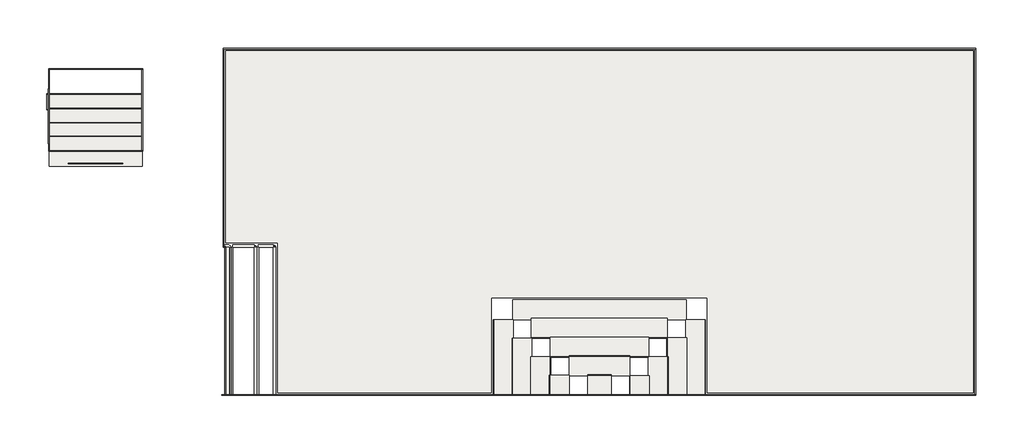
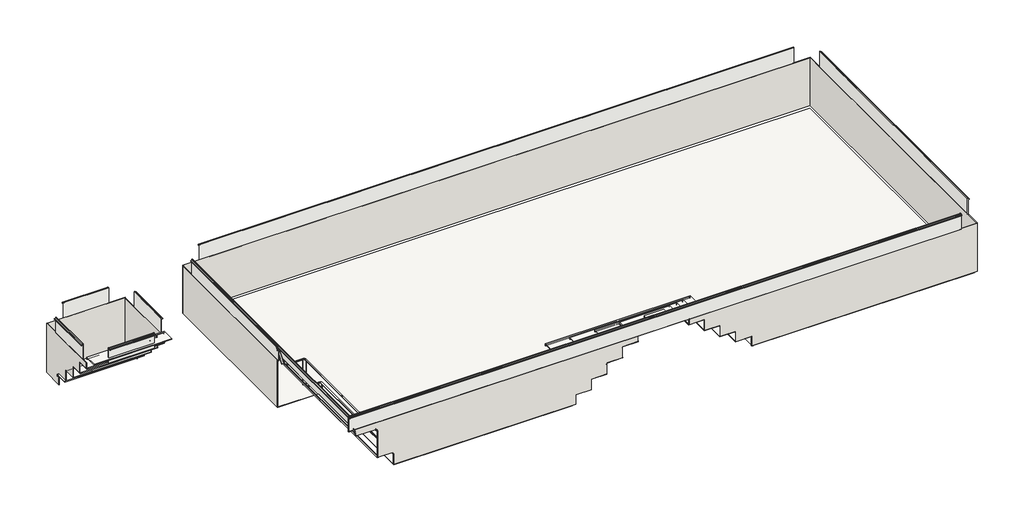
# One storey, incomplete: 37 slabs, 7 walls, 1 proxy.
"""IFC4 building model written with IfcOpenShell, lengths in millimetres."""

from ifc_helpers import new_model, si_unit, frame, origin, place, context, project, spatial, polyline, circle_curve, outline, extrude, faceted_brep, transform, mapped, element, save
from ifc_brep_helpers import plane_surface, cylinder_surface, revolved_surface, advanced_brep
from components import generic_models_2f38e3b8, slab_7ef6d17a, slab_412796ce, slab_e89e9ebe, slab_9f48864e, slab_90aa90d8, slab_a0713d1b, slab_50f677a4, slab_c104f72b, slab_16eb6e68, slab_7d5f53a7, slab_8b9676be, slab_cf50c713, slab_797531ea, slab_d9e7cd34, slab_826b4f3d, slab_c4381082, slab_49bf93fa, slab_b84ba919, slab_03dca62d, slab_431552fd, slab_8d85c21c, slab_4f954f11, slab_7f38c4d1, slab_f0ecebe4, slab_8c8c27a8, slab_8c668322, slab_c2f96149, slab_21f2066a, slab_bfe98183, slab_69e8258f, slab_3769058e, slab_2d9b47c5, slab_a22765c6, slab_a51d032b, slab_653ebc57

model = new_model("IFC4")

# Units and contexts
model_context = context("Model", 3, world=origin())
ifc_project = project(units=[si_unit("LENGTHUNIT", "METRE", prefix="MILLI")], contexts=[model_context])

# Site, building, storey
site = spatial("IfcSite", under=ifc_project)
building = spatial("IfcBuilding", under=site)
storey = spatial("IfcBuildingStorey", under=building, Name="3_NFondo1P1 -1.31", Elevation=-1310.0)

# Proxy
placement = place(None, origin())
generic_models_shape = generic_models_2f38e3b8(model_context)
element("IfcBuildingElementProxy", 1, Name="ROSA GRES_115 : Pieza 115_Tresor_Java_Anti-Slip", ObjectType="ROSA GRES_115 : Pieza 115_Tresor_Java_Anti-Slip", at=placement, inside=storey, context=model_context, shape_type="MappedRepresentation", body=[
    mapped(generic_models_shape, transform((1836.5093267, 9874.9770206, -489.9734114), x_axis=(0.0, 1.0, 0.0), y_axis=(-1.0, 0.0, 0.0), z_axis=(0.0, 0.0, 1.0))),
])

# Slabs
element("IfcSlab", 2, ObjectType="Pieza 316_Patrón 1/3_Tresor_Java_Anti-Slip", at=placement, inside=storey, context=model_context, shape_type="SweptSolid", body=[
    extrude(outline(polyline([(13360.4827381, 7543.7536092), (9100.5359152, 7543.7536092), (9100.5359152, 9063.7536092), (5640.4827381, 9063.7536092), (5640.4827381, 7543.7536092), (2215.5359152, 7543.7536092), (2215.5359152, 9945.0036092), (1380.5359152, 9945.0036092), (1380.5359152, 13023.7004321), (13360.4827381, 13023.7004321), (13360.4827381, 7543.7536092)])), frame((0.0, 0.0, -1319.0), z_axis=(0.0, 0.0, 1.0), x_axis=(1.0, 0.0, 0.0)), (0.0, 0.0, 1.0), 9.0),
])
slab_shape = slab_7ef6d17a(model_context)
element("IfcSlab", 3, ObjectType="ROSA GRES_L62 : Pieza L62_Tresor_Java_Anti-Slip", at=placement, inside=storey, context=model_context, shape_type="MappedRepresentation", body=[
    mapped(slab_shape, transform((5670.5093267, 7513.7270206, -1085.0), x_axis=(0.0, 1.0, 0.0), y_axis=(-1.0, 0.0, 0.0), z_axis=(0.0, 0.0, 1.0))),
])
slab_2_shape = slab_412796ce(model_context)
element("IfcSlab", 4, ObjectType="ROSA GRES_L62 : Pieza L62_Tresor_Java_Anti-Slip", at=placement, inside=storey, context=model_context, shape_type="MappedRepresentation", body=[
    mapped(slab_2_shape, transform((5970.5093267, 7513.7270206, -873.9413919), x_axis=(0.0, 1.0, 0.0), y_axis=(-1.0, 0.0, 0.0), z_axis=(0.0, 0.0, 1.0))),
])
slab_3_shape = slab_e89e9ebe(model_context)
element("IfcSlab", 5, ObjectType="ROSA GRES_L62 : Pieza L62_Tresor_Java_Anti-Slip", at=placement, inside=storey, context=model_context, shape_type="MappedRepresentation", body=[
    mapped(slab_3_shape, transform((6270.5093267, 7513.7270206, -648.9413919), x_axis=(0.0, 1.0, 0.0), y_axis=(-1.0, 0.0, 0.0), z_axis=(0.0, 0.0, 1.0))),
])
slab_4_shape = slab_9f48864e(model_context)
element("IfcSlab", 6, ObjectType="ROSA GRES_L62 : Pieza L62_Tresor_Java_Anti-Slip", at=placement, inside=storey, context=model_context, shape_type="MappedRepresentation", body=[
    mapped(slab_4_shape, transform((6570.5093267, 7513.7270206, -423.9413919), x_axis=(0.0, 1.0, 0.0), y_axis=(-1.0, 0.0, 0.0), z_axis=(0.0, 0.0, 1.0))),
])
slab_5_shape = slab_90aa90d8(model_context)
element("IfcSlab", 7, ObjectType="ROSA GRES_L62 : Pieza L62_Tresor_Java_Anti-Slip", at=placement, inside=storey, context=model_context, shape_type="MappedRepresentation", body=[
    mapped(slab_5_shape, transform((8470.5093267, 7513.7270206, -648.9413919), x_axis=(0.0, 1.0, 0.0), y_axis=(-1.0, 0.0, 0.0), z_axis=(0.0, 0.0, 1.0))),
])
slab_6_shape = slab_a0713d1b(model_context)
element("IfcSlab", 8, ObjectType="ROSA GRES_L62 : Pieza L62_Tresor_Java_Anti-Slip", at=placement, inside=storey, context=model_context, shape_type="MappedRepresentation", body=[
    mapped(slab_6_shape, transform((8770.5093267, 7513.7270206, -873.9413919), x_axis=(0.0, 1.0, 0.0), y_axis=(-1.0, 0.0, 0.0), z_axis=(0.0, 0.0, 1.0))),
])
slab_7_shape = slab_50f677a4(model_context)
element("IfcSlab", 9, ObjectType="ROSA GRES_L62 : Pieza L62_Tresor_Java_Anti-Slip", at=placement, inside=storey, context=model_context, shape_type="MappedRepresentation", body=[
    mapped(slab_7_shape, transform((9070.5093267, 7513.7270206, -1085.0), x_axis=(0.0, 1.0, 0.0), y_axis=(-1.0, 0.0, 0.0), z_axis=(0.0, 0.0, 1.0))),
])
slab_8_shape = slab_c104f72b(model_context)
element("IfcSlab", 10, ObjectType="ROSA GRES_L62 : Pieza L62_Tresor_Java_Anti-Slip", at=placement, inside=storey, context=model_context, shape_type="MappedRepresentation", body=[
    mapped(slab_8_shape, transform((8170.5093267, 7513.7270206, -423.9413919), x_axis=(0.0, 1.0, 0.0), y_axis=(-1.0, 0.0, 0.0), z_axis=(0.0, 0.0, 1.0))),
])
slab_9_shape = slab_16eb6e68(model_context)
element("IfcSlab", 11, ObjectType="ROSA GRES_183 : Pieza 183_Tresor_Java_Anti-Slip", at=placement, inside=storey, context=model_context, shape_type="MappedRepresentation", body=[
    mapped(slab_9_shape, transform((2145.5093267, 7514.9770206, -1069.9734114), x_axis=(0.0, 1.0, 0.0), y_axis=(-1.0, 0.0, 0.0), z_axis=(0.0, 0.0, 1.0))),
])
slab_10_shape = slab_7d5f53a7(model_context)
element("IfcSlab", 12, ObjectType="ROSA GRES_183 : Pieza 183_Tresor_Java_Anti-Slip", at=placement, inside=storey, context=model_context, shape_type="MappedRepresentation", body=[
    mapped(slab_10_shape, transform((1836.5093267, 7504.9770206, -489.9734114), x_axis=(0.0, 1.0, 0.0), y_axis=(-1.0, 0.0, 0.0), z_axis=(0.0, 0.0, 1.0))),
])
slab_11_shape = slab_8b9676be(model_context)
element("IfcSlab", 13, ObjectType="ROSA GRES_183 : Pieza 183_Tresor_Java_Anti-Slip", at=placement, inside=storey, context=model_context, shape_type="MappedRepresentation", body=[
    mapped(slab_11_shape, transform((1836.5093267, 9874.9770206, -999.9468229), x_axis=(0.0, 0.0, 1.0), y_axis=(1.0, 0.0, 0.0), z_axis=(0.0, 1.0, 0.0))),
])
slab_12_shape = slab_cf50c713(model_context)
element("IfcSlab", 14, ObjectType="ROSA GRES_183 : Pieza 183_Tresor_Java_Anti-Slip", at=placement, inside=storey, context=model_context, shape_type="MappedRepresentation", body=[
    mapped(slab_12_shape, transform((2145.5093267, 9874.9770206, -1279.9734118), x_axis=(0.0, 0.0, 1.0), y_axis=(1.0, 0.0, 0.0), z_axis=(0.0, 1.0, 0.0))),
])
slab_13_shape = slab_797531ea(model_context)
element("IfcSlab", 15, ObjectType="ROSA GRES_183 : Pieza 183_Tresor_Java_Anti-Slip", at=placement, inside=storey, context=model_context, shape_type="MappedRepresentation", body=[
    mapped(slab_13_shape, transform((2145.5093267, 9874.9770206, -1069.9734114), x_axis=(-1.0, 0.0, 0.0), y_axis=(0.0, 0.0, 1.0), z_axis=(0.0, 1.0, 0.0))),
])
slab_14_shape = slab_d9e7cd34(model_context)
element("IfcSlab", 16, ObjectType="ROSA GRES_188 : Pieza 188_Tresor_Java_Anti-Slip", at=placement, inside=storey, context=model_context, shape_type="MappedRepresentation", body=[
    mapped(slab_14_shape, transform((1866.5359152, 9874.9770206, -1039.9468229), x_axis=(0.0, -1.0, 0.0), y_axis=(1.0, 0.0, 0.0), z_axis=(0.0, 0.0, 1.0))),
])
slab_15_shape = slab_826b4f3d(model_context)
element("IfcSlab", 17, ObjectType="ROSA GRES_L62 : Pieza L62_Tresor_Java_Anti-Slip", at=placement, inside=storey, context=model_context, shape_type="MappedRepresentation", body=[
    mapped(slab_15_shape, transform((6887.5093267, 8133.7270206, -423.9413919), x_axis=(1.0, 0.0, 0.0), y_axis=(0.0, 1.0, 0.0), z_axis=(0.0, 0.0, 1.0))),
])
slab_16_shape = slab_c4381082(model_context)
element("IfcSlab", 18, ObjectType="ROSA GRES_L62 : Pieza L62_Tresor_Java_Anti-Slip", at=placement, inside=storey, context=model_context, shape_type="MappedRepresentation", body=[
    mapped(slab_16_shape, transform((6585.5093267, 8433.7270206, -648.9413919), x_axis=(1.0, 0.0, 0.0), y_axis=(0.0, 1.0, 0.0), z_axis=(0.0, 0.0, 1.0))),
])
slab_17_shape = slab_49bf93fa(model_context)
element("IfcSlab", 19, ObjectType="ROSA GRES_L62 : Pieza L62_Tresor_Java_Anti-Slip", at=placement, inside=storey, context=model_context, shape_type="MappedRepresentation", body=[
    mapped(slab_17_shape, transform((6279.5093267, 8738.2270206, -873.9413919), x_axis=(1.0, 0.0, 0.0), y_axis=(0.0, 1.0, 0.0), z_axis=(0.0, 0.0, 1.0))),
])
slab_18_shape = slab_b84ba919(model_context)
element("IfcSlab", 20, ObjectType="ROSA GRES_L62 : Pieza L62_Tresor_Java_Anti-Slip", at=placement, inside=storey, context=model_context, shape_type="MappedRepresentation", body=[
    mapped(slab_18_shape, transform((5979.5093267, 9033.7270206, -1085.0), x_axis=(1.0, 0.0, 0.0), y_axis=(0.0, 1.0, 0.0), z_axis=(0.0, 0.0, 1.0))),
])
slab_19_shape = slab_03dca62d(model_context)
element("IfcSlab", 21, ObjectType="ROSA GRES_L62 : Pieza L62_Tresor_Java_Anti-Slip", at=placement, inside=storey, context=model_context, shape_type="MappedRepresentation", body=[
    mapped(slab_19_shape, transform((7184.5093267, 7829.2270206, -201.4413919), x_axis=(1.0, 0.0, 0.0), y_axis=(0.0, 1.0, 0.0), z_axis=(0.0, 0.0, 1.0))),
])
slab_20_shape = slab_431552fd(model_context)
element("IfcSlab", 22, ObjectType="ROSA GRES_188 : Pieza 188_Tresor_Java_Anti-Slip", at=placement, inside=storey, context=model_context, shape_type="MappedRepresentation", body=[
    mapped(slab_20_shape, transform((1455.5151617, 9874.9770206, -460.1378988), x_axis=(0.0, -1.0, 0.0), y_axis=(1.0, 0.0, 0.0), z_axis=(0.0, 0.0, 1.0))),
])
slab_21_shape = slab_8d85c21c(model_context)
element("IfcSlab", 23, ObjectType="ROSA GRES_183 : Pieza 183_Tresor_Java_Anti-Slip", at=placement, inside=storey, context=model_context, shape_type="MappedRepresentation", body=[
    mapped(slab_21_shape, transform((1425.867323, 9874.9770206, -435.3480531), x_axis=(-0.2592541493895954, 0.0, 0.9658091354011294), y_axis=(0.0, -1.0, 0.0), z_axis=(0.9658091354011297, 0.0, 0.259254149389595))),
])
slab_22_shape = slab_4f954f11(model_context)
element("IfcSlab", 24, ObjectType="ROSA GRES_183 : Pieza 183_Tresor_Java_Anti-Slip", at=placement, inside=storey, context=model_context, shape_type="MappedRepresentation", body=[
    mapped(slab_22_shape, transform((1836.5093267, 9874.9770206, -489.9734114), x_axis=(-1.0, 0.0, 0.0), y_axis=(0.0, 0.0, 1.0), z_axis=(0.0, 1.0, 0.0))),
])
slab_23_shape = slab_7f38c4d1(model_context)
element("IfcSlab", 25, ObjectType="ROSA GRES_J62 : Pieza J62_Tresor_Java_Anti-Slip", at=placement, inside=storey, context=model_context, shape_type="MappedRepresentation", body=[
    mapped(slab_23_shape, transform((1335.5352208, 9874.9770206, -1.2015771), x_axis=(0.0, -1.0, 0.0), y_axis=(0.2756373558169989, 0.0, -0.961261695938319), z_axis=(0.961261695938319, 0.0, 0.2756373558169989))),
])
slab_24_shape = slab_f0ecebe4(model_context)
element("IfcSlab", 26, ObjectType="ROSA GRES_J62 : Pieza J62_Tresor_Java_Anti-Slip", at=placement, inside=storey, context=model_context, shape_type="MappedRepresentation", body=[
    mapped(slab_24_shape, transform((1337.7146998, 12744.9770206, 1.0586081), x_axis=(0.0, -1.0, 0.0), y_axis=(0.0, 0.0, -1.0), z_axis=(1.0, 0.0, 0.0))),
])
slab_25_shape = slab_8c8c27a8(model_context)
element("IfcSlab", 27, ObjectType="ROSA GRES_J62 : Pieza J62_Tresor_Java_Anti-Slip", at=placement, inside=storey, context=model_context, shape_type="MappedRepresentation", body=[
    mapped(slab_25_shape, transform((13079.5093267, 13066.5216475, 2.3086081), x_axis=(-1.0, 0.0, 0.0), y_axis=(0.0, 0.0, -1.0), z_axis=(0.0, -1.0, 0.0))),
])
slab_26_shape = slab_8c668322(model_context)
element("IfcSlab", 28, ObjectType="ROSA GRES_J62 : Pieza J62_Tresor_Java_Anti-Slip", at=placement, inside=storey, context=model_context, shape_type="MappedRepresentation", body=[
    mapped(slab_26_shape, transform((13403.3039535, 7823.7270206, 3.5), x_axis=(0.0, 1.0, 0.0), y_axis=(0.0, 0.0, -1.0), z_axis=(-1.0, 0.0, 0.0))),
])
slab_27_shape = slab_c2f96149(model_context)
element("IfcSlab", 29, ObjectType="ROSA GRES_J62 : Pieza J62_Tresor_Java_Anti-Slip", at=placement, inside=storey, context=model_context, shape_type="MappedRepresentation", body=[
    mapped(slab_27_shape, transform((1317.2465302, 7500.9323937, 1.0), x_axis=(1.0, 0.0, 0.0), y_axis=(0.0, 0.0, -1.0), z_axis=(0.0, 1.0, 0.0))),
])
slab_28_shape = slab_21f2066a(model_context)
element("IfcSlab", 30, ObjectType="ROSA GRES_J62 : Pieza J62_Tresor_Java_Anti-Slip", at=placement, inside=storey, context=model_context, shape_type="MappedRepresentation", body=[
    mapped(slab_28_shape, transform((-1140.7406752, 12740.9973611, 0.5), x_axis=(1.0, 0.0, 0.0), y_axis=(0.0, 0.0, 1.0), z_axis=(0.0, -1.0, 0.0))),
])
slab_29_shape = slab_bfe98183(model_context)
element("IfcSlab", 31, ObjectType="ROSA GRES_J62 : Pieza J62_Tresor_Java_Anti-Slip", at=placement, inside=storey, context=model_context, shape_type="MappedRepresentation", body=[
    mapped(slab_29_shape, transform((51.2566084, 11533.9669508, 0.4), x_axis=(0.0, 1.0, 0.0), y_axis=(0.0, 0.0, -1.0), z_axis=(-1.0, 0.0, 0.0))),
])
slab_30_shape = slab_69e8258f(model_context)
element("IfcSlab", 32, ObjectType="ROSA GRES_J62 : Pieza J62_Tresor_Java_Anti-Slip", at=placement, inside=storey, context=model_context, shape_type="MappedRepresentation", body=[
    mapped(slab_30_shape, transform((-1142.9342394, 11211.7412372, 1.521431), x_axis=(1.0, 0.0, 0.0), y_axis=(0.0, 0.0, -1.0), z_axis=(0.0, 1.0, 0.0))),
])
slab_31_shape = slab_3769058e(model_context)
element("IfcSlab", 33, ObjectType="ROSA GRES_J62 : Pieza J62_Tresor_Java_Anti-Slip", at=placement, inside=storey, context=model_context, shape_type="MappedRepresentation", body=[
    mapped(slab_31_shape, transform((-1463.2788888, 12419.4205848, 0.896431), x_axis=(0.0, -1.0, 0.0), y_axis=(0.0, 0.0, -1.0), z_axis=(1.0, 0.0, 0.0))),
])
slab_32_shape = slab_2d9b47c5(model_context)
element("IfcSlab", 34, ObjectType="ROSA GRES_L62 : Pieza L62_Tresor_Java_Anti-Slip", at=placement, inside=storey, context=model_context, shape_type="MappedRepresentation", body=[
    mapped(slab_32_shape, transform((39.5336112, 12333.9719857, -1085.0), x_axis=(-1.0, 0.0, 0.0), y_axis=(0.0, -1.0, 0.0), z_axis=(0.0, 0.0, 1.0))),
])
slab_33_shape = slab_a22765c6(model_context)
element("IfcSlab", 35, ObjectType="ROSA GRES_L62 : Pieza L62_Tresor_Java_Anti-Slip", at=placement, inside=storey, context=model_context, shape_type="MappedRepresentation", body=[
    mapped(slab_33_shape, transform((-1450.4663888, 11421.2219857, -201.4413919), x_axis=(1.0, 0.0, 0.0), y_axis=(0.0, 1.0, 0.0), z_axis=(0.0, 0.0, 1.0))),
])
slab_34_shape = slab_a51d032b(model_context)
element("IfcSlab", 36, ObjectType="ROSA GRES_L62 : Pieza L62_Tresor_Java_Anti-Slip", at=placement, inside=storey, context=model_context, shape_type="MappedRepresentation", body=[
    mapped(slab_34_shape, transform((38.4619815, 11659.2219857, -423.9413919), x_axis=(-1.0, 0.0, 0.0), y_axis=(0.0, -1.0, 0.0), z_axis=(0.0, 0.0, 1.0))),
])
slab_35_shape = slab_653ebc57(model_context)
element("IfcSlab", 37, ObjectType="ROSA GRES_L62 : Pieza L62_Tresor_Java_Anti-Slip", at=placement, inside=storey, context=model_context, shape_type="MappedRepresentation", body=[
    mapped(slab_35_shape, transform((38.6112679, 11876.2219857, -648.9413919), x_axis=(-1.0, 0.0, 0.0), y_axis=(0.0, -1.0, 0.0), z_axis=(0.0, 0.0, 1.0))),
])
element("IfcSlab", 38, ObjectType="ROSA GRES_L62 : Pieza L62_Tresor_Java_Anti-Slip", at=placement, inside=storey, context=model_context, shape_type="MappedRepresentation", body=[
    mapped(slab_35_shape, transform((39.5336112, 12102.5969857, -873.9413919), x_axis=(-1.0, 0.0, 0.0), y_axis=(0.0, -1.0, 0.0), z_axis=(0.0, 0.0, 1.0))),
])

# Walls
element("IfcWall", 39, ObjectType="Pieza 316_Patrón 1/3_Tresor_Java_Anti-Slip", at=placement, inside=storey, context=model_context, shape_type="Brep", body=[
    faceted_brep([(1341.5093267, 13053.7270206, -1279.9734114), (1350.5093267, 13053.7270206, -1279.9734114), (13399.5093267, 13053.7270206, -1279.9734114), (13399.5093267, 13053.7270206, -309.0), (13390.5093267, 13053.7270206, -309.0), (1341.5093267, 13053.7270206, -309.0), (1341.5093267, 13053.7270206, -313.9413919), (1341.5093267, 13062.7270206, -1279.9734114), (1341.5093267, 13062.7270206, -309.0), (13399.5093267, 13062.7270206, -309.0), (13399.5093267, 13062.7270206, -1279.9734114)], [[[0, 1, 2, 3, 4, 5, 6]], [[7, 8, 9, 10]], [[0, 6, 5, 8, 7]], [[3, 2, 10, 9]], [[2, 1, 0, 7, 10]], [[5, 4, 3, 9, 8]]]),
])
element("IfcWall", 40, ObjectType="Pieza 316_Patrón 1/3_Tresor_Java_Anti-Slip", at=placement, inside=storey, context=model_context, shape_type="SweptSolid", body=[
    extrude(outline(polyline([(1350.5093267, 13053.7270206), (1350.5093267, 9905.9770206), (1341.5093267, 9905.9770206), (1341.5093267, 13053.7270206), (1350.5093267, 13053.7270206)])), frame((0.0, 0.0, -1279.9734114), z_axis=(0.0, 0.0, 1.0), x_axis=(1.0, 0.0, 0.0)), (0.0, 0.0, 1.0), 966.0320195),
])
element("IfcWall", 41, ObjectType="Pieza 316_Patrón 1/3_Tresor_Java_Anti-Slip", at=placement, inside=storey, context=model_context, shape_type="SolidModel", body=[
    advanced_brep(
    [(2185.5093267, 7513.7270206, -1279.9734115), (2185.5093267, 7513.7270206, -1069.9734114), (2145.5093267, 7513.7270206, -1029.9734114), (1906.5359152, 7513.7270206, -1029.9734114), (1876.5093267, 7513.7270206, -999.9468229), (1876.5093267, 7513.7270206, -489.9734114), (1836.5093267, 7513.7270206, -449.9734114), (1471.2092889, 7513.7270206, -449.9734114), (1434.6939318, 7513.7270206, -313.9413919), (6879.5093267, 7513.7270206, -313.9413919), (6879.5093267, 7513.7270206, -424.45068), (6879.5093267, 7513.7270206, -426.4413919), (6579.5093267, 7513.7270206, -426.4413919), (6579.5093267, 7513.7270206, -461.9413919), (6579.5093267, 7513.7270206, -648.9413919), (6579.5093267, 7513.7270206, -651.4413919), (6279.5093267, 7513.7270206, -651.4413919), (6279.5093267, 7513.7270206, -685.9413919), (6279.5093267, 7513.7270206, -873.9413919), (6279.5093267, 7513.7270206, -876.4413919), (5979.5093267, 7513.7270206, -876.4413919), (5979.5093267, 7513.7270206, -910.9413919), (5979.5093267, 7513.7270206, -1087.5), (5679.5093267, 7513.7270206, -1087.5), (5679.5093267, 7513.7270206, -1122.0), (5679.5093267, 7513.7270206, -1279.9734115), (5670.5093267, 7513.7270206, -1279.9734115), (2185.5093267, 7504.7270206, -1279.9734115), (5679.5093267, 7504.7270206, -1279.9734115), (5679.5093267, 7504.7270206, -1087.5), (5979.5093267, 7504.7270206, -1087.5), (5979.5093267, 7504.7270206, -876.4413919), (6279.5093267, 7504.7270206, -876.4413919), (6279.5093267, 7504.7270206, -651.4413919), (6579.5093267, 7504.7270206, -651.4413919), (6579.5093267, 7504.7270206, -426.4413919), (6879.5093267, 7504.7270206, -426.4413919), (6879.5093267, 7504.7270206, -313.9413919), (1434.6939318, 7504.7270206, -313.9413919), (1471.2092889, 7504.7270206, -449.9734114), (1836.5093267, 7504.7270206, -449.9734114), (1876.5093267, 7504.7270206, -489.9734114), (1876.5093267, 7504.7270206, -999.9468229), (1906.5359152, 7504.7270206, -1029.9734114), (2145.5093267, 7504.7270206, -1029.9734114), (2185.5093267, 7504.7270206, -1069.9734114)],
    [
        (0, 1),
        (1, 2, circle_curve(frame((2145.5093267, 7513.7270206, -1069.9734114), z_axis=(0.0, -1.0, 0.0), x_axis=(1.0, 0.0, 0.0)), 40.0)),
        (2, 3),
        (3, 4, circle_curve(frame((1906.5314699, 7513.7270206, -999.9512682), z_axis=(0.0, 1.0, 0.0), x_axis=(1.0, 0.0, 0.0)), 30.0221435)),
        (4, 5),
        (5, 6, circle_curve(frame((1836.5093267, 7513.7270206, -489.9734114), z_axis=(0.0, -1.0, 0.0), x_axis=(1.0, 0.0, 0.0)), 40.0)),
        (6, 7),
        (7, 8),
        (8, 9),
        (9, 10),
        (10, 11),
        (11, 12),
        (12, 13),
        (13, 14),
        (14, 15),
        (15, 16),
        (16, 17),
        (17, 18),
        (18, 19),
        (19, 20),
        (20, 21),
        (21, 22),
        (22, 23),
        (23, 24),
        (24, 25),
        (25, 26),
        (26, 0),
        (27, 28),
        (28, 29),
        (29, 30),
        (30, 31),
        (31, 32),
        (32, 33),
        (33, 34),
        (34, 35),
        (35, 36),
        (36, 37),
        (37, 38),
        (38, 39),
        (39, 40),
        (40, 41, circle_curve(frame((1836.5093267, 7504.7270206, -489.9734114), z_axis=(0.0, 1.0, 0.0), x_axis=(1.0, 0.0, 0.0)), 40.0)),
        (41, 42),
        (42, 43, circle_curve(frame((1906.5314699, 7504.7270206, -999.9512682), z_axis=(0.0, -1.0, 0.0), x_axis=(1.0, 0.0, 0.0)), 30.0221435)),
        (43, 44),
        (44, 45, circle_curve(frame((2145.5093267, 7504.7270206, -1069.9734114), z_axis=(0.0, 1.0, 0.0), x_axis=(1.0, 0.0, 0.0)), 40.0)),
        (45, 27),
        (25, 28),
        (27, 0),
        (11, 36),
        (35, 12),
        (15, 34),
        (33, 16),
        (19, 32),
        (31, 20),
        (22, 30),
        (29, 23),
        (9, 37),
        (45, 1),
        (44, 2),
        (43, 3),
        (42, 4),
        (41, 5),
        (40, 6),
        (39, 7),
        (38, 8),
    ],
    [
        plane_surface(frame((9070.5093267, 7513.7270206, -1279.9734114), z_axis=(0.0, 1.0, 0.0), x_axis=(-1.0, 0.0, 0.0))),
        plane_surface(frame((9070.5093267, 7504.7270206, -1279.9734114), z_axis=(0.0, -1.0, 0.0), x_axis=(1.0, 0.0, 0.0))),
        plane_surface(frame((5675.0093267, 7513.7270206, -1279.9734115), z_axis=(0.0, 0.0, -1.0), x_axis=(0.0, -1.0, 0.0))),
        plane_surface(frame((6875.0093267, 7513.7270206, -426.4413919), z_axis=(0.0, 0.0, -1.0), x_axis=(0.0, -1.0, 0.0))),
        plane_surface(frame((6575.0093267, 7513.7270206, -651.4413919), z_axis=(0.0, 0.0, -1.0), x_axis=(0.0, -1.0, 0.0))),
        plane_surface(frame((6275.0093267, 7513.7270206, -876.4413919), z_axis=(0.0, 0.0, -1.0), x_axis=(0.0, -1.0, 0.0))),
        plane_surface(frame((5975.0093267, 7513.7270206, -1087.5), z_axis=(0.0, 0.0, -1.0), x_axis=(0.0, -1.0, 0.0))),
        plane_surface(frame((6879.5093267, 7513.7270206, -424.45068), z_axis=(1.0, 0.0, 0.0), x_axis=(0.0, 1.0, 0.0))),
        plane_surface(frame((6579.5093267, 7533.7270206, -648.9413919), z_axis=(1.0, 0.0, 0.0), x_axis=(0.0, 1.0, 0.0))),
        plane_surface(frame((5679.5093267, 7533.7270206, -1279.9734114), z_axis=(1.0, 0.0, 0.0), x_axis=(0.0, 1.0, 0.0))),
        plane_surface(frame((6279.5093267, 7533.7270206, -873.9413919), z_axis=(1.0, 0.0, 0.0), x_axis=(0.0, 1.0, 0.0))),
        plane_surface(frame((5979.5093267, 8733.7270206, -1099.9248475), z_axis=(1.0, 0.0, 0.0), x_axis=(0.0, 1.0, 0.0))),
        plane_surface(frame((2185.5093267, 7513.7270206, -1279.9734115), z_axis=(-1.0, 0.0, 0.0), x_axis=(0.0, -1.0, 0.0))),
        revolved_surface(polyline([(2185.5093267, 7504.7270206, -1069.9734114), (2185.5093267, 7513.7270206, -1069.9734114)]), (2145.5093267, 7509.2270206, -1069.9734114), (0.0, -1.0, 0.0)),
        plane_surface(frame((2145.5093267, 7513.7270206, -1029.9734114), z_axis=(0.0, 0.0, -1.0), x_axis=(0.0, -1.0, 0.0))),
        cylinder_surface(frame((1906.5314699, 7509.2270206, -999.9512682), z_axis=(0.0, 1.0, 0.0), x_axis=(1.0, 0.0, 0.0)), 30.0221435),
        plane_surface(frame((1876.5093267, 7513.7270206, -999.9468229), z_axis=(-1.0, 0.0, 0.0), x_axis=(0.0, -1.0, 0.0))),
        revolved_surface(polyline([(1876.5093267, 7504.7270206, -489.9734114), (1876.5093267, 7513.7270206, -489.9734114)]), (1836.5093267, 7509.2270206, -489.9734114), (0.0, -1.0, 0.0)),
        plane_surface(frame((1836.5093267, 7513.7270206, -449.9734114), z_axis=(0.0, 0.0, -1.0), x_axis=(0.0, -1.0, 0.0))),
        plane_surface(frame((1471.2092889, 7513.7270206, -449.9734114), z_axis=(-0.9658091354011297, 0.0, -0.2592541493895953), x_axis=(0.0, -1.0, 0.0))),
        plane_surface(frame((1434.6939318, 7513.7270206, -313.9413919), z_axis=(0.0, 0.0, 1.0), x_axis=(0.0, -1.0, 0.0))),
    ],
    [
        (0, [[1, 2, 3, 4, 5, 6, 7, 8, 9, 10, 11, 12, 13, 14, 15, 16, 17, 18, 19, 20, 21, 22, 23, 24, 25, 26, 27]]),
        (1, [[28, 29, 30, 31, 32, 33, 34, 35, 36, 37, 38, 39, 40, 41, 42, 43, 44, 45, 46]]),
        (2, [[-27, -26, 47, -28, 48]]),
        (3, [[-12, 49, -36, 50]]),
        (4, [[-16, 51, -34, 52]]),
        (5, [[-20, 53, -32, 54]]),
        (6, [[-23, 55, -30, 56]]),
        (7, [[-11, -10, 57, -37, -49]]),
        (8, [[-15, -14, -13, -50, -35, -51]]),
        (9, [[-25, -24, -56, -29, -47]]),
        (10, [[-19, -18, -17, -52, -33, -53]]),
        (11, [[-22, -21, -54, -31, -55]]),
        (12, [[-1, -48, -46, 58]]),
        (13, [[-2, -58, -45, 59]]),
        (14, [[-3, -59, -44, 60]]),
        (15, [[-4, -60, -43, 61]]),
        (16, [[-5, -61, -42, 62]]),
        (17, [[-6, -62, -41, 63]]),
        (18, [[-7, -63, -40, 64]]),
        (19, [[-8, -64, -39, 65]]),
        (20, [[-9, -65, -38, -57]]),
    ],
),
    faceted_brep([(13399.5093267, 7513.7270206, -1279.9734114), (9070.5093267, 7513.7270206, -1279.9734114), (9061.5093267, 7513.7270206, -1279.9734114), (9061.5093267, 7513.7270206, -1122.0), (9061.5093267, 7513.7270206, -1087.5), (8761.5093267, 7513.7270206, -1087.5), (8761.5093267, 7513.7270206, -910.9413919), (8761.5093267, 7513.7270206, -876.4413919), (8461.5093267, 7513.7270206, -876.4413919), (8461.5093267, 7513.7270206, -873.9413919), (8461.5093267, 7513.7270206, -685.9413919), (8461.5093267, 7513.7270206, -651.4413919), (8161.5093267, 7513.7270206, -651.4413919), (8161.5093267, 7513.7270206, -648.9413919), (8161.5093267, 7513.7270206, -460.9413919), (8161.5093267, 7513.7270206, -426.4413919), (7861.5093267, 7513.7270206, -426.4413919), (7861.5093267, 7513.7270206, -423.9413919), (7861.5093267, 7513.7270206, -309.0), (13390.5093267, 7513.7270206, -309.0), (13399.5093267, 7513.7270206, -309.0), (13399.5093267, 7504.7270206, -1279.9734114), (13399.5093267, 7504.7270206, -309.0), (7861.5093267, 7504.7270206, -309.0), (7861.5093267, 7504.7270206, -426.4413919), (8161.5093267, 7504.7270206, -426.4413919), (8161.5093267, 7504.7270206, -651.4413919), (8461.5093267, 7504.7270206, -651.4413919), (8461.5093267, 7504.7270206, -876.4413919), (8761.5093267, 7504.7270206, -876.4413919), (8761.5093267, 7504.7270206, -1087.5), (9061.5093267, 7504.7270206, -1087.5), (9061.5093267, 7504.7270206, -1279.9734114)], [[[0, 1, 2, 3, 4, 5, 6, 7, 8, 9, 10, 11, 12, 13, 14, 15, 16, 17, 18, 19, 20]], [[21, 22, 23, 24, 25, 26, 27, 28, 29, 30, 31, 32]], [[0, 20, 22, 21]], [[20, 19, 18, 23, 22]], [[2, 1, 0, 21, 32]], [[5, 4, 31, 30]], [[8, 7, 29, 28]], [[12, 11, 27, 26]], [[16, 15, 25, 24]], [[18, 17, 16, 24, 23]], [[7, 6, 5, 30, 29]], [[15, 14, 13, 12, 26, 25]], [[4, 3, 2, 32, 31]], [[11, 10, 9, 8, 28, 27]]]),
])
element("IfcWall", 42, ObjectType="Pieza 316_Patrón 1/3_Tresor_Java_Anti-Slip", at=placement, inside=storey, context=model_context, shape_type="Brep", body=[
    faceted_brep([(13390.5093267, 13053.7270206, -1283.6131491), (13390.5093267, 7513.7270206, -1283.6131491), (13390.5093267, 7513.7270206, -309.0), (13390.5093267, 13053.7270206, -309.0), (13399.5093267, 13053.7270206, -1283.6131491), (13399.5093267, 13053.7270206, -1279.9734114), (13399.5093267, 13053.7270206, -309.0), (13399.5093267, 7513.7270206, -309.0), (13399.5093267, 7513.7270206, -1279.9734114), (13399.5093267, 7513.7270206, -1283.6131491)], [[[0, 1, 2, 3]], [[4, 5, 6, 7, 8, 9]], [[0, 3, 6, 5, 4]], [[2, 1, 9, 8, 7]], [[1, 0, 4, 9]], [[3, 2, 7, 6]]]),
])
element("IfcWall", 43, ObjectType="Pieza 316_Patrón 1/3_Tresor_Java_Anti-Slip", at=placement, inside=storey, context=model_context, shape_type="Brep", body=[
    faceted_brep([(-1450.4663888, 12737.2027342, -1310.0), (-1450.4663888, 12737.2027342, -309.6), (-1450.4663888, 12728.2027342, -309.6), (-1450.4663888, 11411.7219857, -309.6), (-1450.4663888, 11411.7219857, -423.9413919), (-1450.4663888, 11420.7219857, -423.9413919), (-1450.4663888, 11649.7219857, -423.9413919), (-1450.4663888, 11649.7219857, -459.9443878), (-1450.4663888, 11649.7219857, -648.9413919), (-1450.4663888, 11658.7219857, -648.9413919), (-1450.4663888, 11866.7219857, -648.9413919), (-1450.4663888, 11866.7219857, -687.2476393), (-1450.4663888, 11866.7219857, -873.9413919), (-1450.4663888, 11875.7219857, -873.9413919), (-1450.4663888, 12093.7219857, -873.9413919), (-1450.4663888, 12093.7219857, -910.9949968), (-1450.4663888, 12093.7219857, -1085.0), (-1450.4663888, 12102.7219857, -1085.0), (-1450.4663888, 12325.2219857, -1085.0), (-1450.4663888, 12325.2219857, -1310.0), (-1450.4663888, 12334.2219857, -1310.0), (-1450.4663888, 12728.2027342, -1310.0), (-1459.4663888, 12737.2027342, -1310.0), (-1459.4663888, 12325.2219857, -1310.0), (-1459.4663888, 12325.2219857, -1085.0), (-1459.4663888, 12093.7219857, -1085.0), (-1459.4663888, 12093.7219857, -873.9413919), (-1459.4663888, 11866.7219857, -873.9413919), (-1459.4663888, 11866.7219857, -648.9413919), (-1459.4663888, 11649.7219857, -648.9413919), (-1459.4663888, 11649.7219857, -423.9413919), (-1459.4663888, 11411.7219857, -423.9413919), (-1459.4663888, 11411.7219857, -309.6), (-1459.4663888, 12737.2027342, -309.6)], [[[0, 1, 2, 3, 4, 5, 6, 7, 8, 9, 10, 11, 12, 13, 14, 15, 16, 17, 18, 19, 20, 21]], [[22, 23, 24, 25, 26, 27, 28, 29, 30, 31, 32, 33]], [[1, 0, 22, 33]], [[0, 21, 20, 19, 23, 22]], [[3, 2, 1, 33, 32]], [[6, 5, 4, 31, 30]], [[10, 9, 8, 29, 28]], [[14, 13, 12, 27, 26]], [[18, 17, 16, 25, 24]], [[4, 3, 32, 31]], [[8, 7, 6, 30, 29]], [[12, 11, 10, 28, 27]], [[16, 15, 14, 26, 25]], [[19, 18, 24, 23]]]),
])
element("IfcWall", 44, ObjectType="Pieza 316_Patrón 1/3_Tresor_Java_Anti-Slip", at=placement, inside=storey, context=model_context, shape_type="Brep", body=[
    faceted_brep([(47.4619815, 12737.2027342, -1310.0), (-1450.4663888, 12737.2027342, -1310.0), (-1450.4663888, 12737.2027342, -309.6), (47.4619815, 12737.2027342, -309.6), (47.4619815, 12728.2027342, -1310.0), (47.4619815, 12728.2027342, -309.6), (38.4619815, 12728.2027342, -309.6), (-1450.4663888, 12728.2027342, -309.6), (-1450.4663888, 12728.2027342, -1310.0), (38.4619815, 12728.2027342, -1310.0)], [[[0, 1, 2, 3]], [[4, 5, 6, 7, 8, 9]], [[1, 0, 4, 9, 8]], [[3, 2, 7, 6, 5]], [[2, 1, 8, 7]], [[0, 3, 5, 4]]]),
])
element("IfcWall", 45, ObjectType="Pieza 316_Patrón 1/3_Tresor_Java_Anti-Slip", at=placement, inside=storey, context=model_context, shape_type="Brep", body=[
    faceted_brep([(47.4619815, 12728.2027342, -1310.0), (47.4619815, 12728.2027342, -309.6), (47.4619815, 11411.7219857, -309.6), (47.4619815, 11411.7219857, -423.9413919), (47.4619815, 11649.7219857, -423.9413919), (47.4619815, 11649.7219857, -648.9413919), (47.4619815, 11866.7219857, -648.9413919), (47.4619815, 11866.7219857, -873.9413919), (47.4619815, 12093.7219857, -873.9413919), (47.4619815, 12093.7219857, -1085.0), (47.4619815, 12325.2219857, -1085.0), (47.4619815, 12325.2219857, -1310.0), (38.4619815, 12728.2027342, -1310.0), (38.4619815, 12334.2219857, -1310.0), (38.4619815, 12325.2219857, -1310.0), (38.4619815, 12325.2219857, -1085.0), (38.4619815, 12102.7219857, -1085.0), (38.4619815, 12093.7219857, -1085.0), (38.4619815, 12093.7219857, -910.9949968), (38.4619815, 12093.7219857, -873.9413919), (38.4619815, 11875.7219857, -873.9413919), (38.4619815, 11866.7219857, -873.9413919), (38.4619815, 11866.7219857, -687.2476393), (38.4619815, 11866.7219857, -648.9413919), (38.4619815, 11658.7219857, -648.9413919), (38.4619815, 11649.7219857, -648.9413919), (38.4619815, 11649.7219857, -459.9443878), (38.4619815, 11649.7219857, -423.9413919), (38.4619815, 11420.7219857, -423.9413919), (38.4619815, 11411.7219857, -423.9413919), (38.4619815, 11411.7219857, -309.6), (38.4619815, 12728.2027342, -309.6)], [[[0, 1, 2, 3, 4, 5, 6, 7, 8, 9, 10, 11]], [[12, 13, 14, 15, 16, 17, 18, 19, 20, 21, 22, 23, 24, 25, 26, 27, 28, 29, 30, 31]], [[1, 0, 12, 31]], [[0, 11, 14, 13, 12]], [[2, 1, 31, 30]], [[4, 3, 29, 28, 27]], [[6, 5, 25, 24, 23]], [[8, 7, 21, 20, 19]], [[10, 9, 17, 16, 15]], [[3, 2, 30, 29]], [[5, 4, 27, 26, 25]], [[7, 6, 23, 22, 21]], [[9, 8, 19, 18, 17]], [[11, 10, 15, 14]]]),
])

save(model, "model.ifc")
